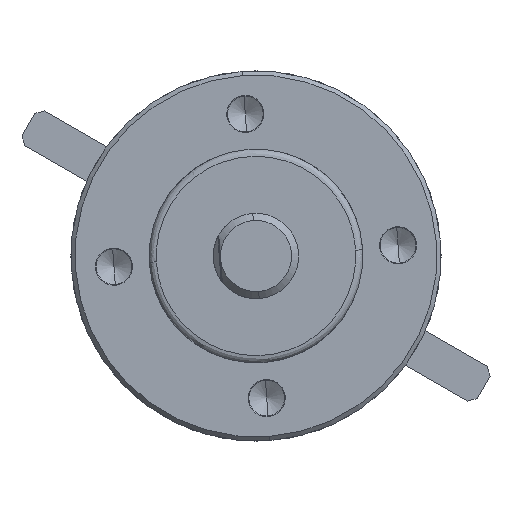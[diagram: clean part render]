
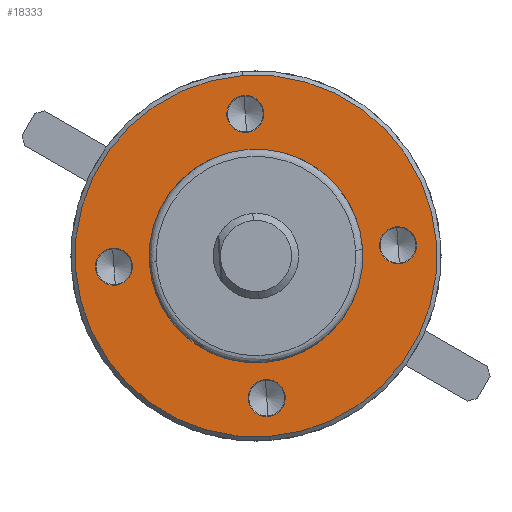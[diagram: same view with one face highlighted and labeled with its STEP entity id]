
A CAD part, left-side view. The second image highlights one B-rep face of the part: STEP entity #18333.
In plain terms, the highlighted planar face has unit normal (-1, 0, 0).
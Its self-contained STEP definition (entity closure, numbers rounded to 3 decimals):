
#138 = AXIS2_PLACEMENT_3D ( 'NONE', #15009, #37941, #18264 ) ;
#179 = AXIS2_PLACEMENT_3D ( 'NONE', #40120, #20416, #797 ) ;
#797 = DIRECTION ( 'NONE',  ( 0., 0., 1. ) ) ;
#891 = AXIS2_PLACEMENT_3D ( 'NONE', #41009, #21306, #1725 ) ;
#1073 = CARTESIAN_POINT ( 'NONE',  ( 0., 0., 0. ) ) ;
#1093 = ORIENTED_EDGE ( 'NONE', *, *, #8196, .F. ) ;
#1269 = CIRCLE ( 'NONE', #7874, 1.3 ) ;
#1725 = DIRECTION ( 'NONE',  ( 0., 0., 1. ) ) ;
#2172 = EDGE_CURVE ( 'NONE', #30610, #28186, #32577, .T. ) ;
#2773 = EDGE_CURVE ( 'NONE', #32512, #42457, #29349, .T. ) ;
#2899 = EDGE_CURVE ( 'NONE', #5167, #34659, #37718, .T. ) ;
#3171 = DIRECTION ( 'NONE',  ( -1., 0., 0. ) ) ;
#3264 = VERTEX_POINT ( 'NONE', #26912 ) ;
#3488 = CARTESIAN_POINT ( 'NONE',  ( 0., -10., 0. ) ) ;
#3579 = EDGE_LOOP ( 'NONE', ( #18660, #33957 ) ) ;
#3670 = DIRECTION ( 'NONE',  ( 1., 0., 0. ) ) ;
#4359 = DIRECTION ( 'NONE',  ( 0., 0., -1. ) ) ;
#4386 = EDGE_LOOP ( 'NONE', ( #34721, #4941 ) ) ;
#4941 = ORIENTED_EDGE ( 'NONE', *, *, #2172, .F. ) ;
#4958 = FACE_BOUND ( 'NONE', #6056, .T. ) ;
#5077 = VERTEX_POINT ( 'NONE', #33217 ) ;
#5098 = ORIENTED_EDGE ( 'NONE', *, *, #38973, .F. ) ;
#5167 = VERTEX_POINT ( 'NONE', #29926 ) ;
#5340 = CIRCLE ( 'NONE', #31701, 12.7 ) ;
#5379 = EDGE_CURVE ( 'NONE', #18423, #9733, #6949, .T. ) ;
#6056 = EDGE_LOOP ( 'NONE', ( #27600, #1093 ) ) ;
#6119 = EDGE_CURVE ( 'NONE', #35491, #28193, #8322, .T. ) ;
#6217 = PLANE ( 'NONE',  #7541 ) ;
#6690 = CARTESIAN_POINT ( 'NONE',  ( 0., 0., 11.3 ) ) ;
#6805 = DIRECTION ( 'NONE',  ( 0., 0., 1. ) ) ;
#6949 = CIRCLE ( 'NONE', #138, 1.3 ) ;
#7351 = AXIS2_PLACEMENT_3D ( 'NONE', #8983, #31925, #12285 ) ;
#7375 = DIRECTION ( 'NONE',  ( -1., 0., 0. ) ) ;
#7433 = CIRCLE ( 'NONE', #16660, 7.5 ) ;
#7541 = AXIS2_PLACEMENT_3D ( 'NONE', #15886, #9467, #32392 ) ;
#7874 = AXIS2_PLACEMENT_3D ( 'NONE', #37176, #17507, #40507 ) ;
#8196 = EDGE_CURVE ( 'NONE', #28193, #35491, #35926, .T. ) ;
#8322 = CIRCLE ( 'NONE', #13175, 1.3 ) ;
#8983 = CARTESIAN_POINT ( 'NONE',  ( 0., 0., 10. ) ) ;
#9069 = CIRCLE ( 'NONE', #891, 1.3 ) ;
#9467 = DIRECTION ( 'NONE',  ( 1., 0., 0. ) ) ;
#9733 = VERTEX_POINT ( 'NONE', #21197 ) ;
#9807 = EDGE_CURVE ( 'NONE', #34659, #5167, #7433, .T. ) ;
#12285 = DIRECTION ( 'NONE',  ( 0., 0., 1. ) ) ;
#13175 = AXIS2_PLACEMENT_3D ( 'NONE', #3488, #26363, #6805 ) ;
#13686 = FACE_OUTER_BOUND ( 'NONE', #32721, .T. ) ;
#14689 = FACE_BOUND ( 'NONE', #31207, .T. ) ;
#15009 = CARTESIAN_POINT ( 'NONE',  ( 0., 0., -10. ) ) ;
#15337 = DIRECTION ( 'NONE',  ( -1., 0., 0. ) ) ;
#15886 = CARTESIAN_POINT ( 'NONE',  ( 0., 0., 0. ) ) ;
#16589 = CARTESIAN_POINT ( 'NONE',  ( 0., 0., -12.7 ) ) ;
#16660 = AXIS2_PLACEMENT_3D ( 'NONE', #34964, #15337, #38279 ) ;
#16975 = AXIS2_PLACEMENT_3D ( 'NONE', #1073, #23944, #4359 ) ;
#17507 = DIRECTION ( 'NONE',  ( -1., 0., 0. ) ) ;
#18264 = DIRECTION ( 'NONE',  ( 0., 0., 1. ) ) ;
#18317 = CIRCLE ( 'NONE', #179, 1.3 ) ;
#18333 = ADVANCED_FACE ( 'NONE', ( #4958, #32140, #22385, #14689, #38827, #13686 ), #6217, .F. ) ;
#18423 = VERTEX_POINT ( 'NONE', #29492 ) ;
#18475 = EDGE_LOOP ( 'NONE', ( #39824, #5098 ) ) ;
#18521 = ORIENTED_EDGE ( 'NONE', *, *, #5379, .F. ) ;
#18660 = ORIENTED_EDGE ( 'NONE', *, *, #9807, .F. ) ;
#18771 = CARTESIAN_POINT ( 'NONE',  ( 0., 0., 0. ) ) ;
#19071 = CARTESIAN_POINT ( 'NONE',  ( 0., 0., 12.7 ) ) ;
#19286 = CIRCLE ( 'NONE', #22002, 1.3 ) ;
#19674 = CARTESIAN_POINT ( 'NONE',  ( 0., -10., -1.3 ) ) ;
#20416 = DIRECTION ( 'NONE',  ( -1., 0., 0. ) ) ;
#21190 = CARTESIAN_POINT ( 'NONE',  ( 0., -10., 1.3 ) ) ;
#21197 = CARTESIAN_POINT ( 'NONE',  ( 0., 0., -8.7 ) ) ;
#21306 = DIRECTION ( 'NONE',  ( -1., 0., 0. ) ) ;
#22002 = AXIS2_PLACEMENT_3D ( 'NONE', #22743, #3171, #26024 ) ;
#22071 = DIRECTION ( 'NONE',  ( 0., 0., -1. ) ) ;
#22246 = EDGE_CURVE ( 'NONE', #9733, #18423, #9069, .T. ) ;
#22385 = FACE_BOUND ( 'NONE', #18475, .T. ) ;
#22743 = CARTESIAN_POINT ( 'NONE',  ( 0., 10., 0. ) ) ;
#23254 = CARTESIAN_POINT ( 'NONE',  ( 0., 0., 0. ) ) ;
#23606 = ORIENTED_EDGE ( 'NONE', *, *, #2773, .F. ) ;
#23944 = DIRECTION ( 'NONE',  ( -1., 0., 0. ) ) ;
#26024 = DIRECTION ( 'NONE',  ( 0., 0., 1. ) ) ;
#26363 = DIRECTION ( 'NONE',  ( -1., 0., 0. ) ) ;
#26530 = DIRECTION ( 'NONE',  ( 0., 0., -1. ) ) ;
#26912 = CARTESIAN_POINT ( 'NONE',  ( 0., 10., 1.3 ) ) ;
#26964 = CARTESIAN_POINT ( 'NONE',  ( 0., -10., 0. ) ) ;
#27600 = ORIENTED_EDGE ( 'NONE', *, *, #6119, .F. ) ;
#27615 = EDGE_CURVE ( 'NONE', #3264, #5077, #19286, .T. ) ;
#28186 = VERTEX_POINT ( 'NONE', #6690 ) ;
#28193 = VERTEX_POINT ( 'NONE', #19674 ) ;
#28308 = EDGE_CURVE ( 'NONE', #42457, #32512, #5340, .T. ) ;
#29349 = CIRCLE ( 'NONE', #42012, 12.7 ) ;
#29492 = CARTESIAN_POINT ( 'NONE',  ( 0., 0., -11.3 ) ) ;
#29926 = CARTESIAN_POINT ( 'NONE',  ( 0., 0., 7.5 ) ) ;
#30282 = DIRECTION ( 'NONE',  ( 0., 0., 1. ) ) ;
#30610 = VERTEX_POINT ( 'NONE', #38250 ) ;
#31021 = CARTESIAN_POINT ( 'NONE',  ( 0., 0., -7.5 ) ) ;
#31207 = EDGE_LOOP ( 'NONE', ( #41347, #18521 ) ) ;
#31701 = AXIS2_PLACEMENT_3D ( 'NONE', #18771, #41729, #22071 ) ;
#31925 = DIRECTION ( 'NONE',  ( -1., 0., 0. ) ) ;
#32140 = FACE_BOUND ( 'NONE', #4386, .T. ) ;
#32392 = DIRECTION ( 'NONE',  ( 0., 0., -1. ) ) ;
#32512 = VERTEX_POINT ( 'NONE', #16589 ) ;
#32577 = CIRCLE ( 'NONE', #7351, 1.3 ) ;
#32721 = EDGE_LOOP ( 'NONE', ( #23606, #40609 ) ) ;
#33217 = CARTESIAN_POINT ( 'NONE',  ( 0., 10., -1.3 ) ) ;
#33957 = ORIENTED_EDGE ( 'NONE', *, *, #2899, .F. ) ;
#34659 = VERTEX_POINT ( 'NONE', #31021 ) ;
#34721 = ORIENTED_EDGE ( 'NONE', *, *, #35106, .F. ) ;
#34964 = CARTESIAN_POINT ( 'NONE',  ( 0., 0., 0. ) ) ;
#35106 = EDGE_CURVE ( 'NONE', #28186, #30610, #1269, .T. ) ;
#35491 = VERTEX_POINT ( 'NONE', #21190 ) ;
#35926 = CIRCLE ( 'NONE', #37695, 1.3 ) ;
#37176 = CARTESIAN_POINT ( 'NONE',  ( 0., 0., 10. ) ) ;
#37695 = AXIS2_PLACEMENT_3D ( 'NONE', #26964, #7375, #30282 ) ;
#37718 = CIRCLE ( 'NONE', #16975, 7.5 ) ;
#37941 = DIRECTION ( 'NONE',  ( -1., 0., 0. ) ) ;
#38250 = CARTESIAN_POINT ( 'NONE',  ( 0., 0., 8.7 ) ) ;
#38279 = DIRECTION ( 'NONE',  ( 0., 0., -1. ) ) ;
#38827 = FACE_BOUND ( 'NONE', #3579, .T. ) ;
#38973 = EDGE_CURVE ( 'NONE', #5077, #3264, #18317, .T. ) ;
#39824 = ORIENTED_EDGE ( 'NONE', *, *, #27615, .F. ) ;
#40120 = CARTESIAN_POINT ( 'NONE',  ( 0., 10., 0. ) ) ;
#40507 = DIRECTION ( 'NONE',  ( 0., 0., 1. ) ) ;
#40609 = ORIENTED_EDGE ( 'NONE', *, *, #28308, .F. ) ;
#41009 = CARTESIAN_POINT ( 'NONE',  ( 0., 0., -10. ) ) ;
#41347 = ORIENTED_EDGE ( 'NONE', *, *, #22246, .F. ) ;
#41729 = DIRECTION ( 'NONE',  ( 1., 0., 0. ) ) ;
#42012 = AXIS2_PLACEMENT_3D ( 'NONE', #23254, #3670, #26530 ) ;
#42457 = VERTEX_POINT ( 'NONE', #19071 ) ;
